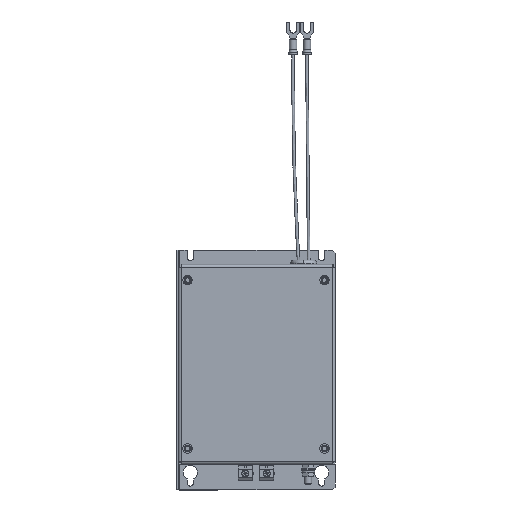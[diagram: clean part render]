
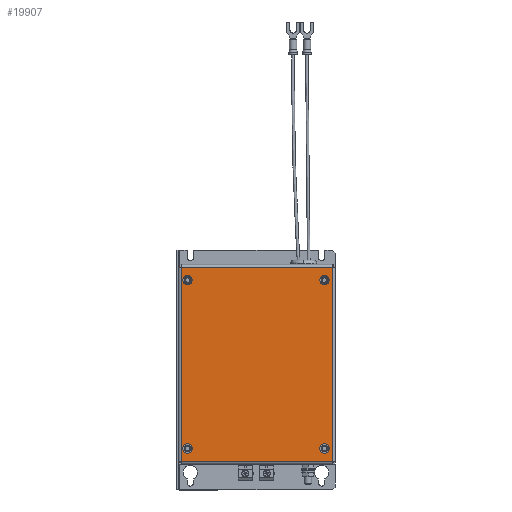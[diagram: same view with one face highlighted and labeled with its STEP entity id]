
A CAD part, top view. The second image highlights one B-rep face of the part: STEP entity #19907.
In plain terms, the highlighted planar face has unit normal (0, 0, 1) as drawn and (0, 1, 0) by its records, which use the part's own axes.
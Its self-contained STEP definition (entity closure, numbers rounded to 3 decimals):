
#31 = DIRECTION ( 'NONE',  ( 1., 0., 0. ) ) ;
#1004 = CARTESIAN_POINT ( 'NONE',  ( -7.5, 1., -129. ) ) ;
#1177 = LINE ( 'NONE', #21812, #12862 ) ;
#1437 = CARTESIAN_POINT ( 'NONE',  ( -55., 1., -70. ) ) ;
#1553 = FACE_BOUND ( 'NONE', #13850, .T. ) ;
#1555 = CARTESIAN_POINT ( 'NONE',  ( -28.5, 1., -138. ) ) ;
#2302 = DIRECTION ( 'NONE',  ( 1., 0., 0. ) ) ;
#2494 = CARTESIAN_POINT ( 'NONE',  ( -106.475, 1., -129. ) ) ;
#2556 = VERTEX_POINT ( 'NONE', #9162 ) ;
#2714 = CARTESIAN_POINT ( 'NONE',  ( -100.525, 1., -11. ) ) ;
#2720 = AXIS2_PLACEMENT_3D ( 'NONE', #23307, #6019, #4174 ) ;
#2813 = EDGE_CURVE ( 'NONE', #23608, #23328, #9433, .T. ) ;
#3019 = CARTESIAN_POINT ( 'NONE',  ( -4.525, 1., -129. ) ) ;
#3029 = DIRECTION ( 'NONE',  ( 0., -1., 0. ) ) ;
#3111 = CARTESIAN_POINT ( 'NONE',  ( -10.475, 1., -11. ) ) ;
#3304 = FACE_BOUND ( 'NONE', #15754, .T. ) ;
#3855 = VERTEX_POINT ( 'NONE', #22326 ) ;
#3909 = DIRECTION ( 'NONE',  ( 1., 0., 0. ) ) ;
#4174 = DIRECTION ( 'NONE',  ( 1., 0., 0. ) ) ;
#4405 = CARTESIAN_POINT ( 'NONE',  ( -82.5, 1., -2. ) ) ;
#4450 = CIRCLE ( 'NONE', #21117, 2.975 ) ;
#4536 = DIRECTION ( 'NONE',  ( 1., 0., 0. ) ) ;
#5056 = ORIENTED_EDGE ( 'NONE', *, *, #7472, .T. ) ;
#5204 = EDGE_CURVE ( 'NONE', #16060, #14280, #20828, .T. ) ;
#5275 = EDGE_CURVE ( 'NONE', #10270, #10026, #13417, .T. ) ;
#5345 = DIRECTION ( 'NONE',  ( 0., -1., 0. ) ) ;
#5389 = DIRECTION ( 'NONE',  ( 1., 0., 0. ) ) ;
#5679 = AXIS2_PLACEMENT_3D ( 'NONE', #14195, #3029, #12694 ) ;
#6019 = DIRECTION ( 'NONE',  ( 0., -1., 0. ) ) ;
#6428 = VERTEX_POINT ( 'NONE', #7785 ) ;
#6527 = ORIENTED_EDGE ( 'NONE', *, *, #23458, .T. ) ;
#7033 = FACE_BOUND ( 'NONE', #10290, .T. ) ;
#7472 = EDGE_CURVE ( 'NONE', #9187, #3855, #20391, .T. ) ;
#7576 = CARTESIAN_POINT ( 'NONE',  ( -108., 1., -138. ) ) ;
#7785 = CARTESIAN_POINT ( 'NONE',  ( -2., 1., -2. ) ) ;
#8001 = ORIENTED_EDGE ( 'NONE', *, *, #15770, .T. ) ;
#8077 = CIRCLE ( 'NONE', #11600, 2.975 ) ;
#8337 = CARTESIAN_POINT ( 'NONE',  ( -2., 1., -138. ) ) ;
#8847 = DIRECTION ( 'NONE',  ( 0., -1., 0. ) ) ;
#9162 = CARTESIAN_POINT ( 'NONE',  ( -108., 1., -2. ) ) ;
#9187 = VERTEX_POINT ( 'NONE', #2714 ) ;
#9277 = CIRCLE ( 'NONE', #12462, 2.975 ) ;
#9433 = CIRCLE ( 'NONE', #10241, 2.975 ) ;
#9455 = ORIENTED_EDGE ( 'NONE', *, *, #12912, .T. ) ;
#10026 = VERTEX_POINT ( 'NONE', #2494 ) ;
#10064 = AXIS2_PLACEMENT_3D ( 'NONE', #1437, #16702, #31 ) ;
#10142 = ORIENTED_EDGE ( 'NONE', *, *, #18219, .T. ) ;
#10241 = AXIS2_PLACEMENT_3D ( 'NONE', #20924, #19044, #3909 ) ;
#10270 = VERTEX_POINT ( 'NONE', #22713 ) ;
#10290 = EDGE_LOOP ( 'NONE', ( #5056, #6527 ) ) ;
#10423 = DIRECTION ( 'NONE',  ( 1., 0., 0. ) ) ;
#10506 = DIRECTION ( 'NONE',  ( 0., 0., 1. ) ) ;
#10698 = EDGE_LOOP ( 'NONE', ( #14654, #9455 ) ) ;
#10868 = FACE_OUTER_BOUND ( 'NONE', #14250, .T. ) ;
#11600 = AXIS2_PLACEMENT_3D ( 'NONE', #12704, #8847, #5389 ) ;
#11663 = AXIS2_PLACEMENT_3D ( 'NONE', #17300, #24297, #20911 ) ;
#11698 = EDGE_CURVE ( 'NONE', #14280, #2556, #1177, .T. ) ;
#11756 = AXIS2_PLACEMENT_3D ( 'NONE', #15703, #21433, #4536 ) ;
#11878 = EDGE_CURVE ( 'NONE', #2556, #6428, #22806, .T. ) ;
#12332 = VERTEX_POINT ( 'NONE', #15898 ) ;
#12462 = AXIS2_PLACEMENT_3D ( 'NONE', #20615, #5345, #13037 ) ;
#12538 = LINE ( 'NONE', #18366, #24378 ) ;
#12694 = DIRECTION ( 'NONE',  ( 1., 0., 0. ) ) ;
#12704 = CARTESIAN_POINT ( 'NONE',  ( -103.5, 1., -129. ) ) ;
#12862 = VECTOR ( 'NONE', #10506, 1000. ) ;
#12912 = EDGE_CURVE ( 'NONE', #23328, #23608, #22852, .T. ) ;
#13037 = DIRECTION ( 'NONE',  ( 1., 0., 0. ) ) ;
#13417 = CIRCLE ( 'NONE', #2720, 2.975 ) ;
#13522 = CARTESIAN_POINT ( 'NONE',  ( -4.525, 1., -11. ) ) ;
#13737 = ORIENTED_EDGE ( 'NONE', *, *, #11698, .T. ) ;
#13850 = EDGE_LOOP ( 'NONE', ( #18724, #10142 ) ) ;
#14195 = CARTESIAN_POINT ( 'NONE',  ( -7.5, 1., -129. ) ) ;
#14250 = EDGE_LOOP ( 'NONE', ( #13737, #23634, #23838, #20542 ) ) ;
#14280 = VERTEX_POINT ( 'NONE', #7576 ) ;
#14654 = ORIENTED_EDGE ( 'NONE', *, *, #2813, .T. ) ;
#14713 = FACE_BOUND ( 'NONE', #10698, .T. ) ;
#15200 = CIRCLE ( 'NONE', #5679, 2.975 ) ;
#15635 = VECTOR ( 'NONE', #2302, 1000. ) ;
#15703 = CARTESIAN_POINT ( 'NONE',  ( -7.5, 1., -11. ) ) ;
#15754 = EDGE_LOOP ( 'NONE', ( #8001, #24107 ) ) ;
#15770 = EDGE_CURVE ( 'NONE', #22940, #12332, #15200, .T. ) ;
#15898 = CARTESIAN_POINT ( 'NONE',  ( -10.475, 1., -129. ) ) ;
#16060 = VERTEX_POINT ( 'NONE', #8337 ) ;
#16263 = DIRECTION ( 'NONE',  ( 0., -1., 0. ) ) ;
#16702 = DIRECTION ( 'NONE',  ( 0., 1., 0. ) ) ;
#16705 = DIRECTION ( 'NONE',  ( -1., 0., 0. ) ) ;
#17300 = CARTESIAN_POINT ( 'NONE',  ( -103.5, 1., -11. ) ) ;
#18219 = EDGE_CURVE ( 'NONE', #10026, #10270, #8077, .T. ) ;
#18366 = CARTESIAN_POINT ( 'NONE',  ( -2., 1., -36. ) ) ;
#18452 = PLANE ( 'NONE',  #10064 ) ;
#18724 = ORIENTED_EDGE ( 'NONE', *, *, #5275, .T. ) ;
#19044 = DIRECTION ( 'NONE',  ( 0., -1., 0. ) ) ;
#19907 = ADVANCED_FACE ( 'NONE', ( #14713, #7033, #3304, #1553, #10868 ), #18452, .T. ) ;
#20391 = CIRCLE ( 'NONE', #11663, 2.975 ) ;
#20542 = ORIENTED_EDGE ( 'NONE', *, *, #5204, .T. ) ;
#20615 = CARTESIAN_POINT ( 'NONE',  ( -103.5, 1., -11. ) ) ;
#20828 = LINE ( 'NONE', #1555, #24137 ) ;
#20911 = DIRECTION ( 'NONE',  ( 1., 0., 0. ) ) ;
#20924 = CARTESIAN_POINT ( 'NONE',  ( -7.5, 1., -11. ) ) ;
#21117 = AXIS2_PLACEMENT_3D ( 'NONE', #1004, #16263, #10423 ) ;
#21433 = DIRECTION ( 'NONE',  ( 0., -1., 0. ) ) ;
#21812 = CARTESIAN_POINT ( 'NONE',  ( -108., 1., -104. ) ) ;
#22326 = CARTESIAN_POINT ( 'NONE',  ( -106.475, 1., -11. ) ) ;
#22713 = CARTESIAN_POINT ( 'NONE',  ( -100.525, 1., -129. ) ) ;
#22806 = LINE ( 'NONE', #4405, #15635 ) ;
#22852 = CIRCLE ( 'NONE', #11756, 2.975 ) ;
#22940 = VERTEX_POINT ( 'NONE', #3019 ) ;
#23307 = CARTESIAN_POINT ( 'NONE',  ( -103.5, 1., -129. ) ) ;
#23328 = VERTEX_POINT ( 'NONE', #3111 ) ;
#23397 = EDGE_CURVE ( 'NONE', #6428, #16060, #12538, .T. ) ;
#23458 = EDGE_CURVE ( 'NONE', #3855, #9187, #9277, .T. ) ;
#23608 = VERTEX_POINT ( 'NONE', #13522 ) ;
#23634 = ORIENTED_EDGE ( 'NONE', *, *, #11878, .T. ) ;
#23838 = ORIENTED_EDGE ( 'NONE', *, *, #23397, .T. ) ;
#24107 = ORIENTED_EDGE ( 'NONE', *, *, #24554, .T. ) ;
#24137 = VECTOR ( 'NONE', #16705, 1000. ) ;
#24226 = DIRECTION ( 'NONE',  ( 0., 0., -1. ) ) ;
#24297 = DIRECTION ( 'NONE',  ( 0., -1., 0. ) ) ;
#24378 = VECTOR ( 'NONE', #24226, 1000. ) ;
#24554 = EDGE_CURVE ( 'NONE', #12332, #22940, #4450, .T. ) ;
